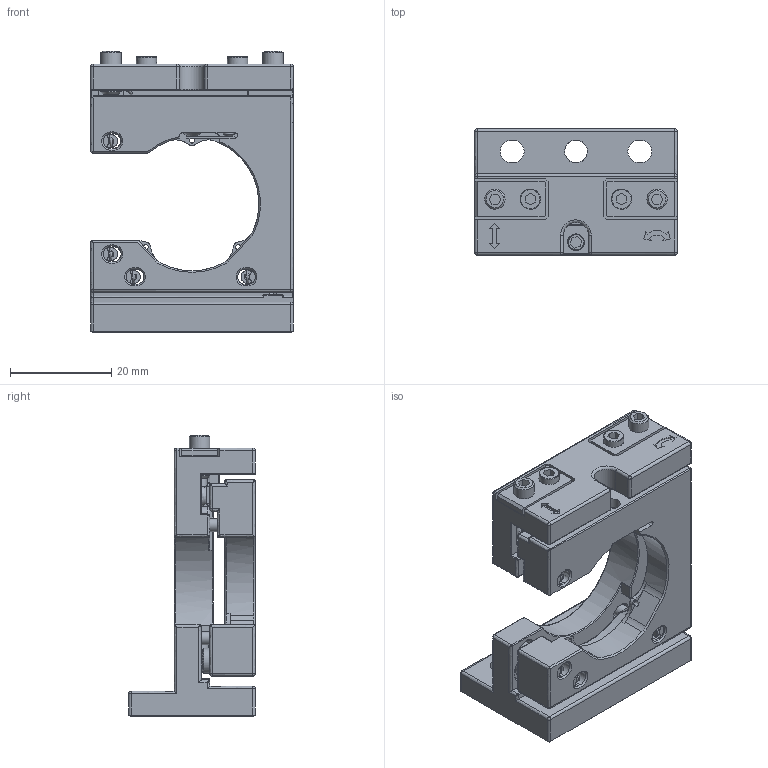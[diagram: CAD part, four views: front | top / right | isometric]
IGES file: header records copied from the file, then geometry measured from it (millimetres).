
Global section: file name: VMHV-254L-F-NM_IGS; native system: Autodesk Inventor 2023; preprocessor: unknown; author: ta.murata; date: 20250513.164215; units: millimetre
Bounding box: 40 x 25 x 55.5 mm (x, y, z)
Volume: 19653.5 mm3; surface area: 14120.4 mm2
Topology: 6 solids, 12 shells, 885 faces, 2261 edges, 1411 vertices
Faces by surface type: bspline 885
